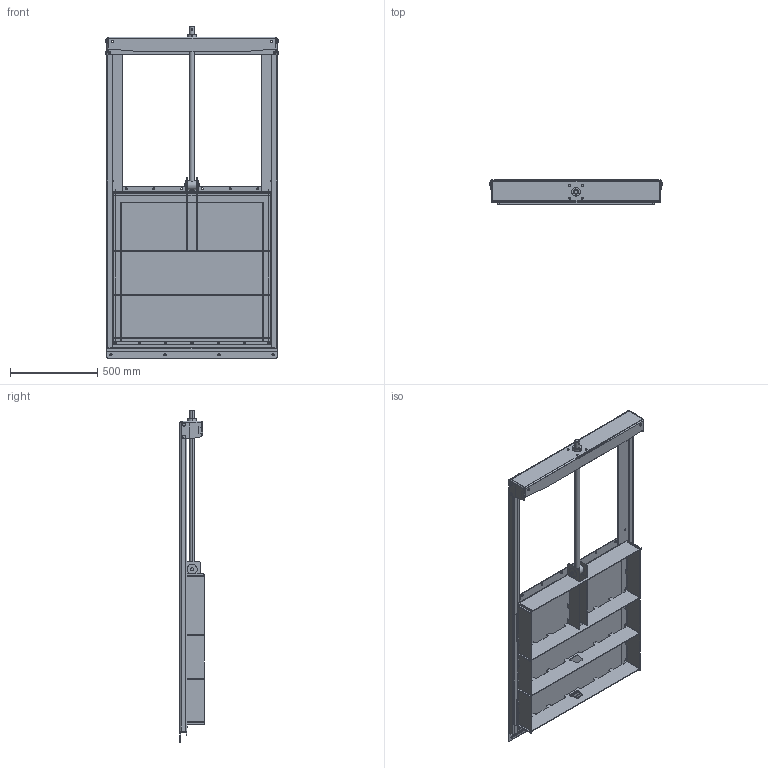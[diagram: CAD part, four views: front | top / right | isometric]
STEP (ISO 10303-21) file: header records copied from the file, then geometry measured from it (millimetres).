
FILE_DESCRIPTION (( 'STEP AP214' ), '1' );
FILE_NAME ('VGM620X-00EP0800.STEP', '2020-04-09T16:45:17', ( '' ), ( '' ), 'SwSTEP 2.0', 'SolidWorks 2017', '' );
FILE_SCHEMA (( 'AUTOMOTIVE_DESIGN' ));
Length unit declared in the file: millimetre
Products named in the file (1): VGM620X-00EP0800
Bounding box: 996.8 x 139 x 1904 mm (x, y, z)
Volume: 13267600 mm3; surface area: 6109872.4 mm2
Topology: 89 solids, 89 shells, 2984 faces, 7929 edges, 5151 vertices
Faces by surface type: plane 1521, cylinder 1099, cone 310, bspline 54
Entity records: 130424 total; most frequent: CARTESIAN_POINT 20549, DIRECTION 15924, ORIENTED_EDGE 15842, EDGE_CURVE 7921, AXIS2_PLACEMENT_3D 5428, VERTEX_POINT 5151, LINE 5068, VECTOR 5068
